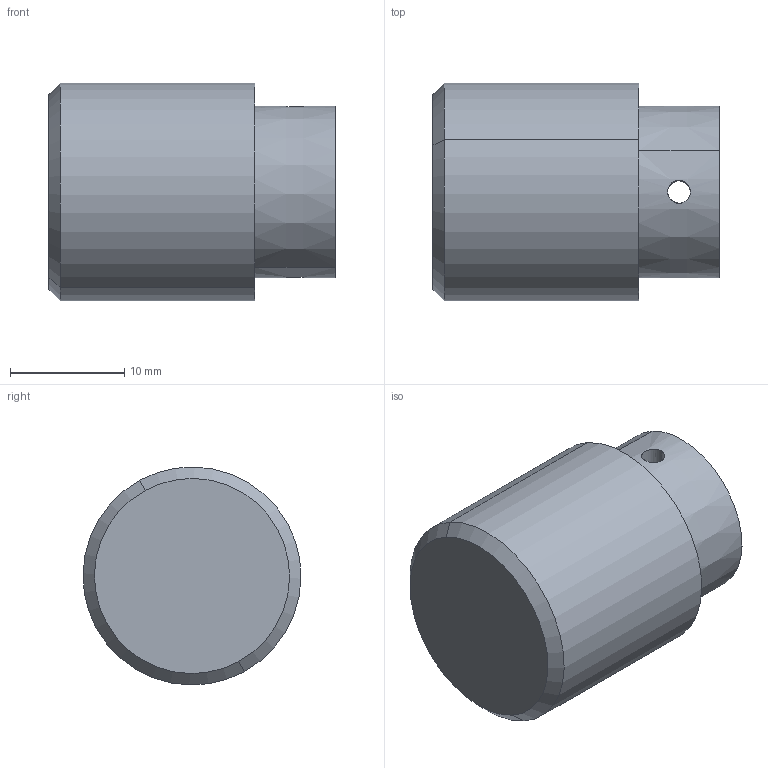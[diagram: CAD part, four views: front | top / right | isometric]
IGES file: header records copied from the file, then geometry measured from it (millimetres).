
Start section: START RECORD GO HERE.
Global section: file name: 1360.000.014.000.PERILLA.igs; native system: DASSAULT SYSTEMES CATIA Version 5-6 Release 2018 - www.3ds.com; preprocessor: V5-6R2018_5.28.6.0.03-10-2020.20.00; author: Pc; organization: DESKTOP-CAESKE4; date: 20241108.095431; units: millimetre
Bounding box: 25 x 19.04 x 19.04 mm (x, y, z)
Surface area: 2101.8 mm2 (no closed solid volume)
Topology: 0 solids, 0 shells, 16 faces, 72 edges, 72 vertices
Faces by surface type: revolution 12, plane 4
